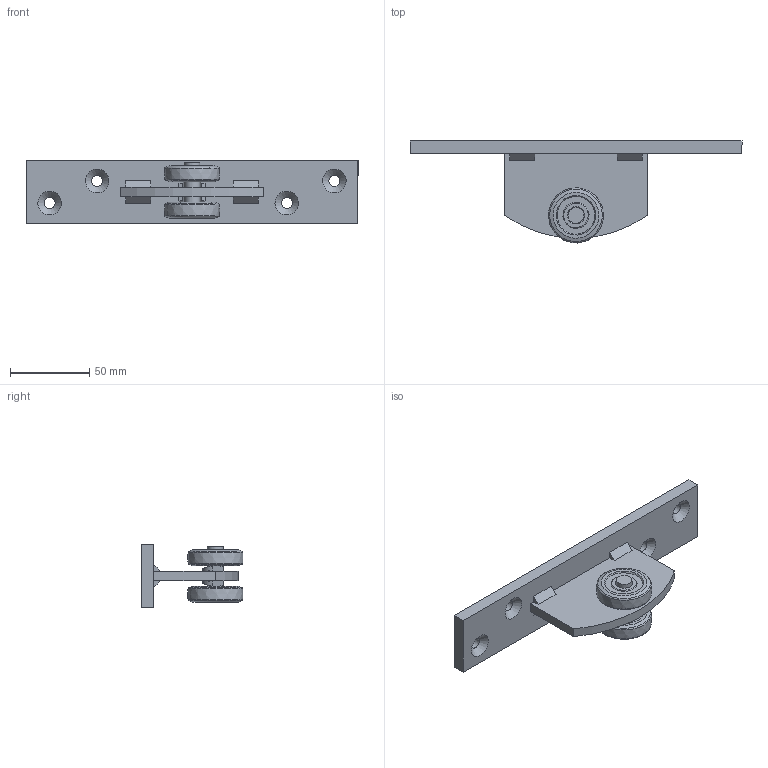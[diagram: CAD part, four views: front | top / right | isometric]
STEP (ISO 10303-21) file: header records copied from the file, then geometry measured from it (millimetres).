
FILE_DESCRIPTION(/* description */ ('Einfachrolle mit Flansch Nr.2'),/* implementation_level */ '2;1');
FILE_NAME(/* name */ 'Q:\sge-ma\Produktmanagement-STB\STB\Workspace\TraceParts\Einfachrolle mit Flansch\010336984.stp',/* time_stamp */ '2018-03-02T11:51:58+01:00',/* author */ ('avschreier'),/* organization */ (''),/* preprocessor_version */ 'ST-DEVELOPER v16.1',/* originating_system */ 'Autodesk Inventor 2016',/* authorisation */ '');
FILE_SCHEMA (('CONFIG_CONTROL_DESIGN'));
Length unit declared in the file: millimetre
Products named in the file (7): 010336984_Schweißnähte; 000302054; 000302003; 000303236; 336290020; 000304013; 010336984
Assembly tree (8 placements, depth 2):
  010336984
    010336984_Schweißnähte
    000302054
    000302003
    000303236  x2
    336290020  x2
    000304013
Bounding box: 210 x 64.48 x 40 mm (x, y, z)
Volume: 110130.8 mm3; surface area: 40600.4 mm2
Topology: 11 solids, 11 shells, 163 faces, 374 edges, 242 vertices
Faces by surface type: plane 100, cone 21, cylinder 19, bspline 18, torus 5
Full cylindrical faces by diameter (mm): 7 x4, 10 x3, 12 x1
Entity records: 4091 total; most frequent: CARTESIAN_POINT 1637, DIRECTION 486, ORIENTED_EDGE 426, EDGE_CURVE 213, AXIS2_PLACEMENT_3D 177, VERTEX_POINT 152, EDGE_LOOP 147, LINE 132
